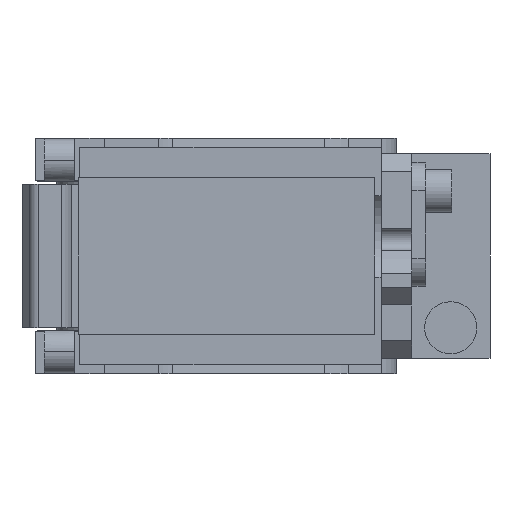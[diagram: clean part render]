
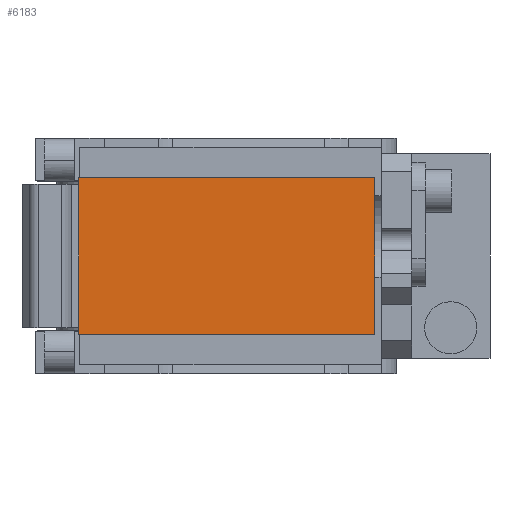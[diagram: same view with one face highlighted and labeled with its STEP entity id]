
A CAD part, front view. The second image highlights one B-rep face of the part: STEP entity #6183.
In plain terms, the highlighted planar face has unit normal (0, -1, 0).
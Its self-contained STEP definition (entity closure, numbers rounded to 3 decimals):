
#365 = VERTEX_POINT ( 'NONE', #12337 ) ;
#739 = CARTESIAN_POINT ( 'NONE',  ( -6., -233., 18. ) ) ;
#1184 = EDGE_CURVE ( 'NONE', #2530, #8611, #7377, .T. ) ;
#1508 = DIRECTION ( 'NONE',  ( 1., 0., 0. ) ) ;
#1524 = DIRECTION ( 'NONE',  ( 0., -1., 0. ) ) ;
#1666 = LINE ( 'NONE', #8369, #9508 ) ;
#2097 = VECTOR ( 'NONE', #1508, 1000. ) ;
#2530 = VERTEX_POINT ( 'NONE', #7435 ) ;
#2858 = AXIS2_PLACEMENT_3D ( 'NONE', #7396, #1524, #12002 ) ;
#3394 = ORIENTED_EDGE ( 'NONE', *, *, #5544, .T. ) ;
#5544 = EDGE_CURVE ( 'NONE', #8611, #365, #1666, .T. ) ;
#5767 = VECTOR ( 'NONE', #8632, 1000. ) ;
#6183 = ADVANCED_FACE ( 'NONE', ( #9548 ), #13332, .T. ) ;
#6303 = EDGE_CURVE ( 'NONE', #13021, #2530, #13492, .T. ) ;
#6309 = DIRECTION ( 'NONE',  ( 0., 0., 1. ) ) ;
#7377 = LINE ( 'NONE', #12057, #2097 ) ;
#7396 = CARTESIAN_POINT ( 'NONE',  ( 0., -233., 0. ) ) ;
#7435 = CARTESIAN_POINT ( 'NONE',  ( -6., -233., -18. ) ) ;
#7571 = CARTESIAN_POINT ( 'NONE',  ( 62., -233., -18. ) ) ;
#7814 = ORIENTED_EDGE ( 'NONE', *, *, #1184, .T. ) ;
#8369 = CARTESIAN_POINT ( 'NONE',  ( 62., -233., 18. ) ) ;
#8611 = VERTEX_POINT ( 'NONE', #7571 ) ;
#8632 = DIRECTION ( 'NONE',  ( -1., 0., 0. ) ) ;
#9031 = VECTOR ( 'NONE', #14794, 1000. ) ;
#9384 = ORIENTED_EDGE ( 'NONE', *, *, #13645, .T. ) ;
#9508 = VECTOR ( 'NONE', #6309, 1000. ) ;
#9548 = FACE_OUTER_BOUND ( 'NONE', #14066, .T. ) ;
#9795 = CARTESIAN_POINT ( 'NONE',  ( -6., -233., 18. ) ) ;
#11007 = ORIENTED_EDGE ( 'NONE', *, *, #6303, .T. ) ;
#11347 = CARTESIAN_POINT ( 'NONE',  ( -6., -233., 18. ) ) ;
#12002 = DIRECTION ( 'NONE',  ( 0., 0., -1. ) ) ;
#12057 = CARTESIAN_POINT ( 'NONE',  ( -6., -233., -18. ) ) ;
#12337 = CARTESIAN_POINT ( 'NONE',  ( 62., -233., 18. ) ) ;
#13021 = VERTEX_POINT ( 'NONE', #11347 ) ;
#13332 = PLANE ( 'NONE',  #2858 ) ;
#13492 = LINE ( 'NONE', #739, #9031 ) ;
#13645 = EDGE_CURVE ( 'NONE', #365, #13021, #14518, .T. ) ;
#14066 = EDGE_LOOP ( 'NONE', ( #11007, #7814, #3394, #9384 ) ) ;
#14518 = LINE ( 'NONE', #9795, #5767 ) ;
#14794 = DIRECTION ( 'NONE',  ( 0., 0., -1. ) ) ;
